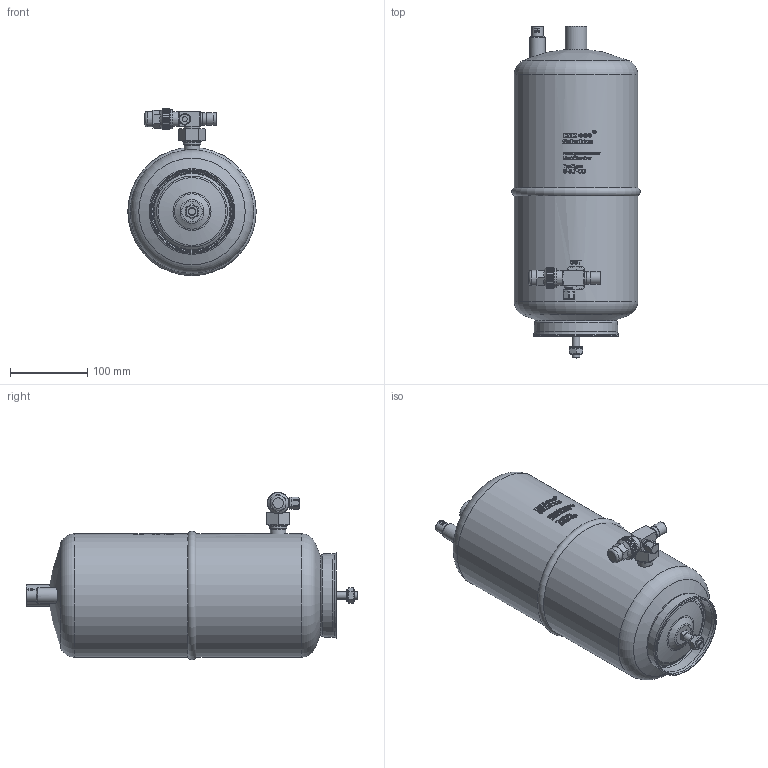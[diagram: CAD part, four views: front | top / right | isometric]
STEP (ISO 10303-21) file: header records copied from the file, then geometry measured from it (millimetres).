
FILE_DESCRIPTION(/* description */ (''),/* implementation_level */ '2;1');
FILE_NAME(/* name */ 'P:\SGS\S-5,7-CD\S-5,7-CD.stp',/* time_stamp */ '2017-10-05T09:07:15+02:00',/* author */ ('neufeld'),/* organization */ (''),/* preprocessor_version */ 'ST-DEVELOPER v16.1',/* originating_system */ 'Autodesk Inventor 2016',/* authorisation */ '');
FILE_SCHEMA (('AUTOMOTIVE_DESIGN { 1 0 10303 214 3 1 1 }'));
Length unit declared in the file: millimetre
Products named in the file (3): S-5,7-CD_1; S-5,7-CD_2; S-5,7-CD
Assembly tree (2 placements, depth 2):
  S-5,7-CD
    S-5,7-CD_1
    S-5,7-CD_2
Bounding box: 166.5 x 430.54 x 217.05 mm (x, y, z)
Volume: 6927177.3 mm3; surface area: 245521.3 mm2
Topology: 2 solids, 7 shells, 1513 faces, 4046 edges, 2674 vertices
Faces by surface type: bspline 609, plane 608, cylinder 197, cone 81, torus 15, sphere 3
Full cylindrical faces by diameter (mm): 4 x1, 6.5 x1, 7.87 x1, 8 x1, 9 x1, 9.2 x1, 9.5 x2, 10 x2, 10.1 x1, 10.72 x1, 11 x1, 12.1 x1, 12.2 x1, 12.9 x1, 13.3 x1, 13.5 x1, 14.2 x1, 15 x1, 15.75 x1, 15.87 x1, 16 x3, 16.1 x1, 16.7 x1, 16.8 x1, 17.3 x1, 18.3 x1, 18.631 x1, 19 x1, 19.05 x1, 19.9 x1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
Entity records: 58384 total; most frequent: CARTESIAN_POINT 25057, ORIENTED_EDGE 7806, DIRECTION 5121, EDGE_CURVE 3903, VERTEX_POINT 2636, LINE 1833, VECTOR 1833, EDGE_LOOP 1751
